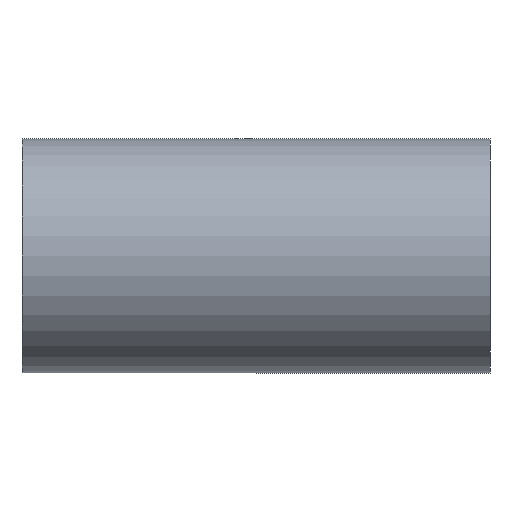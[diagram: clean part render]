
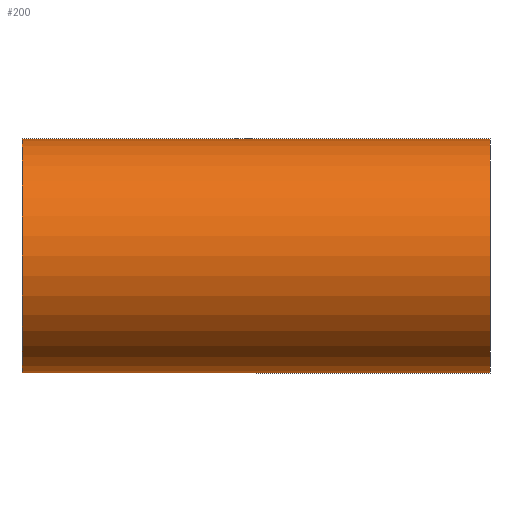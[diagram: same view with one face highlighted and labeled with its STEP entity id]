
A CAD part, front view. The second image highlights one B-rep face of the part: STEP entity #200.
In plain terms, the highlighted cylindrical face has radius 5 mm (diameter 10 mm), a partial arc.
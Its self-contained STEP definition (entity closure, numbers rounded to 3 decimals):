
#15 = VECTOR ( 'NONE', #64, 1000. ) ;
#16 = CARTESIAN_POINT ( 'NONE',  ( -10., 0., -5. ) ) ;
#25 = CARTESIAN_POINT ( 'NONE',  ( 10., 0., 0. ) ) ;
#57 = EDGE_CURVE ( 'NONE', #357, #66, #400, .T. ) ;
#64 = DIRECTION ( 'NONE',  ( -1., 0., 0. ) ) ;
#66 = VERTEX_POINT ( 'NONE', #575 ) ;
#76 = LINE ( 'NONE', #298, #690 ) ;
#115 = EDGE_CURVE ( 'NONE', #147, #357, #76, .T. ) ;
#143 = CYLINDRICAL_SURFACE ( 'NONE', #185, 5. ) ;
#147 = VERTEX_POINT ( 'NONE', #241 ) ;
#179 = EDGE_CURVE ( 'NONE', #147, #340, #524, .T. ) ;
#185 = AXIS2_PLACEMENT_3D ( 'NONE', #422, #199, #563 ) ;
#199 = DIRECTION ( 'NONE',  ( -1., 0., 0. ) ) ;
#200 = ADVANCED_FACE ( 'NONE', ( #487 ), #143, .T. ) ;
#241 = CARTESIAN_POINT ( 'NONE',  ( 10., 0., -5. ) ) ;
#274 = ORIENTED_EDGE ( 'NONE', *, *, #179, .T. ) ;
#295 = AXIS2_PLACEMENT_3D ( 'NONE', #343, #396, #522 ) ;
#298 = CARTESIAN_POINT ( 'NONE',  ( 0., 0., -5. ) ) ;
#302 = DIRECTION ( 'NONE',  ( -1., 0., 0. ) ) ;
#335 = CARTESIAN_POINT ( 'NONE',  ( 0., 0., 5. ) ) ;
#340 = VERTEX_POINT ( 'NONE', #682 ) ;
#343 = CARTESIAN_POINT ( 'NONE',  ( -10., 0., 0. ) ) ;
#357 = VERTEX_POINT ( 'NONE', #16 ) ;
#374 = EDGE_CURVE ( 'NONE', #340, #66, #571, .T. ) ;
#382 = ORIENTED_EDGE ( 'NONE', *, *, #57, .F. ) ;
#396 = DIRECTION ( 'NONE',  ( -1., 0., 0. ) ) ;
#400 = CIRCLE ( 'NONE', #295, 5. ) ;
#422 = CARTESIAN_POINT ( 'NONE',  ( 0., 0., 0. ) ) ;
#444 = ORIENTED_EDGE ( 'NONE', *, *, #115, .F. ) ;
#464 = ORIENTED_EDGE ( 'NONE', *, *, #374, .T. ) ;
#487 = FACE_OUTER_BOUND ( 'NONE', #670, .T. ) ;
#522 = DIRECTION ( 'NONE',  ( 0., 0., 1. ) ) ;
#524 = CIRCLE ( 'NONE', #644, 5. ) ;
#563 = DIRECTION ( 'NONE',  ( 0., 0., 1. ) ) ;
#571 = LINE ( 'NONE', #335, #15 ) ;
#575 = CARTESIAN_POINT ( 'NONE',  ( -10., 0., 5. ) ) ;
#644 = AXIS2_PLACEMENT_3D ( 'NONE', #25, #302, #654 ) ;
#654 = DIRECTION ( 'NONE',  ( 0., 0., 1. ) ) ;
#670 = EDGE_LOOP ( 'NONE', ( #444, #274, #464, #382 ) ) ;
#682 = CARTESIAN_POINT ( 'NONE',  ( 10., 0., 5. ) ) ;
#690 = VECTOR ( 'NONE', #700, 1000. ) ;
#700 = DIRECTION ( 'NONE',  ( -1., 0., 0. ) ) ;
